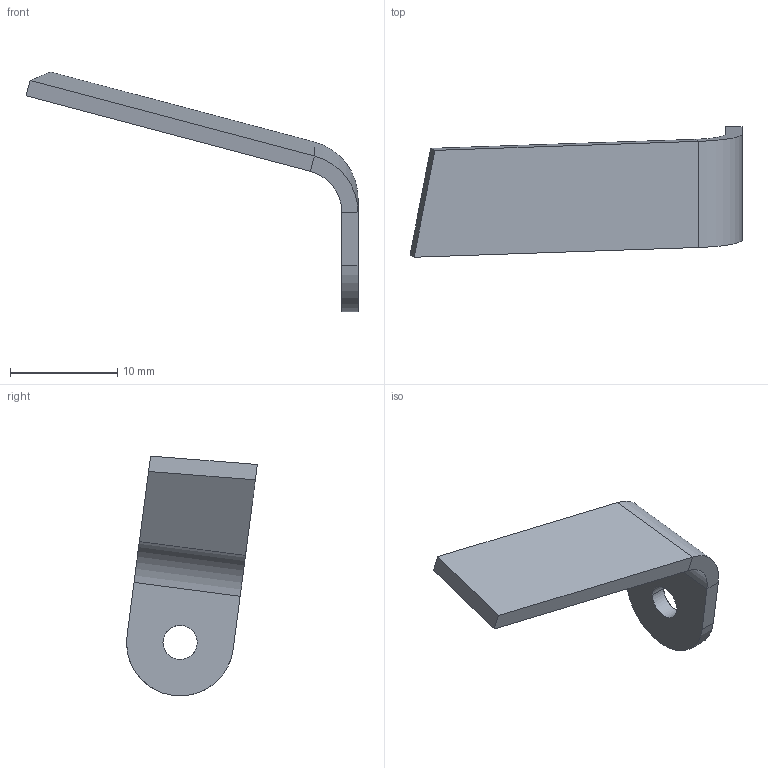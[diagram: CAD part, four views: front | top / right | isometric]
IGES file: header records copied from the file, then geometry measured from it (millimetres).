
Start section: START RECORD GO HERE.
Global section: file name: 20M_EL_04011 (chape tdb centre gauche).igs; native system: IBM CATIA IGES - CATIA Version 5 Release 19 ; preprocessor: CATIA Version 5 Release 19 ; author: mik75; organization: LAPTOP-SUH344G9; date: 20200123.184640; units: millimetre
Bounding box: 31.03 x 12.22 x 22.41 mm (x, y, z)
Surface area: 983.9 mm2 (no closed solid volume)
Topology: 0 solids, 0 shells, 16 faces, 70 edges, 71 vertices
Faces by surface type: plane 11, revolution 5
